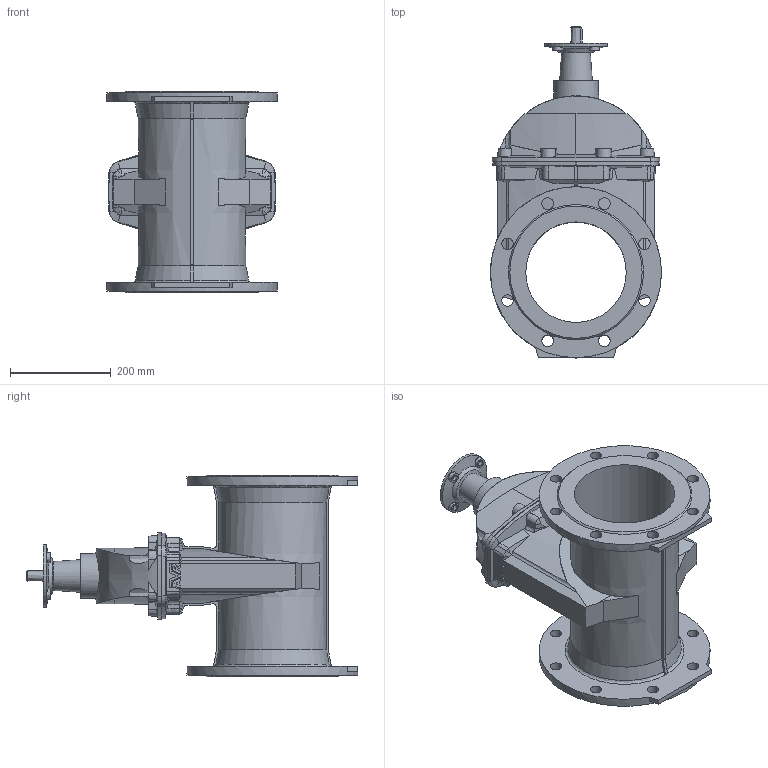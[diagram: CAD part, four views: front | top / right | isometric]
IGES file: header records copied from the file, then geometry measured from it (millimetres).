
Start section: SolidWorks IGES file using analytic representation for surfaces
Global section: file name: \\avksan2\techshare\PBM outline export from Enovia\O_15_72_DN200_X0XXX099_AA0.igs; native system: SolidWorks 2012; preprocessor: SolidWorks 2012; author: pbm; date: 170310.095607; units: inch
Bounding box: 340 x 660 x 400 mm (x, y, z)
Surface area: 1076416.2 mm2 (no closed solid volume)
Topology: 0 solids, 0 shells, 393 faces, 2182 edges, 2097 vertices
Faces by surface type: revolution 220, bspline 173
